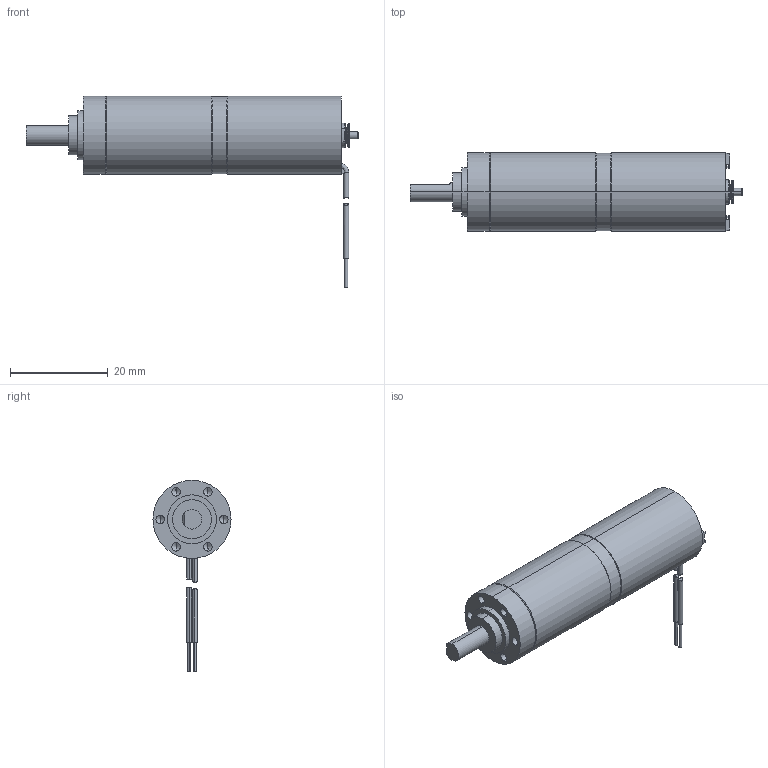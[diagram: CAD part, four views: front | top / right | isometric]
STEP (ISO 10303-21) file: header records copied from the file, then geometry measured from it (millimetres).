
FILE_DESCRIPTION (( 'STEP AP214' ), '1' );
FILE_NAME ('DCX16SG + GP16C-4 étages.STEP', '2014-10-15T13:28:20', ( '' ), ( '' ), 'SwSTEP 2.0', 'SolidWorks 2013', '' );
FILE_SCHEMA (( 'AUTOMOTIVE_DESIGN' ));
Length unit declared in the file: millimetre
Products named in the file (23): 11; DCX16SG; 10; 6; 15; DCX16SG + GP16C-4 étages; 1; 2; 9; 1577440; 8; 7; 3; 19; 18; 17; GP16C - 4st; 16; 14; 5; 4; 13; 12
Assembly tree (22 placements, depth 3):
  DCX16SG + GP16C-4 étages
    DCX16SG
      10
      11
      12
      13
      4
      5
      14
      16
      17
      18
      19
      3
      7
      8
      1577440
      9
      2
      1
      15
      6
    GP16C - 4st
Bounding box: 67.95 x 16 x 39.2 mm (x, y, z)
Volume: 8473.9 mm3; surface area: 6643 mm2
Topology: 21 solids, 21 shells, 1044 faces, 2605 edges, 1657 vertices
Faces by surface type: plane 525, cylinder 297, cone 152, bspline 70
Entity records: 44613 total; most frequent: CARTESIAN_POINT 7607, DIRECTION 5287, ORIENTED_EDGE 5176, EDGE_CURVE 2588, AXIS2_PLACEMENT_3D 1797, VECTOR 1693, LINE 1693, VERTEX_POINT 1657
